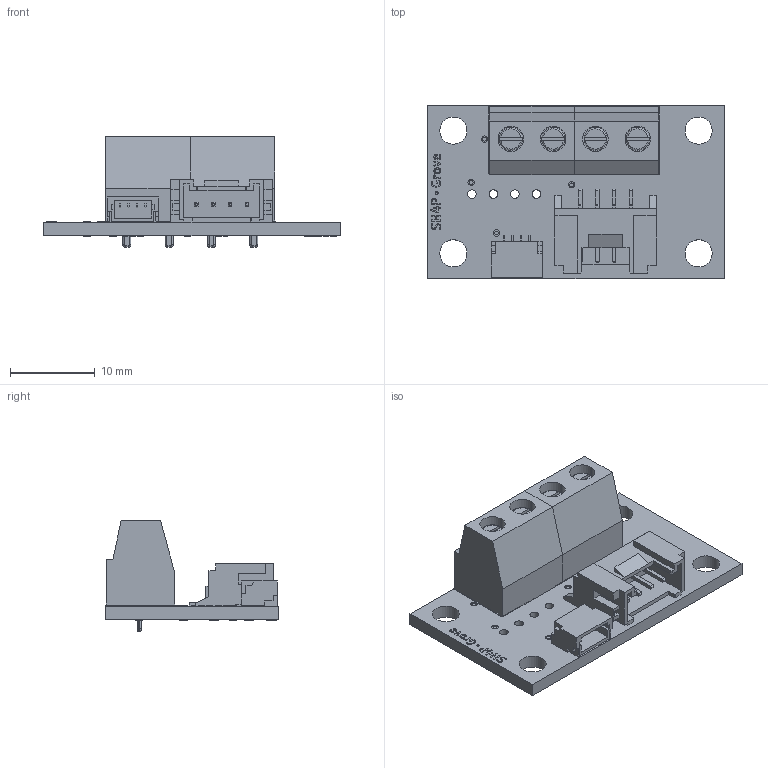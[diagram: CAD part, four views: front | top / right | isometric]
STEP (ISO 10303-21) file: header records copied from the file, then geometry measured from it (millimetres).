
FILE_DESCRIPTION(('FreeCAD Model'),'2;1');
FILE_NAME('Open CASCADE Shape Model','2025-01-06T09:47:46',(''),(''), 'Open CASCADE STEP processor 7.6','FreeCAD','Unknown');
FILE_SCHEMA(('AUTOMOTIVE_DESIGN { 1 0 10303 214 1 1 1 1 }'));
Length unit declared in the file: millimetre
Products named in the file (59): Unnamed; _d; Pcb_4a00; Board_Geoms_4a00; botSilks_2f016; botSilks_2f02; botSilks_2f003; botSilks_2f004; botSilks_2f005; botSilks_2f006; botSilks_2f007; botSilks_2f008; botSilks_2f009; botSilks_2f010; botSilks_2f011; botSilks_2f012; botSilks_2f013; botSilks_2f014; botSilks_2f015; topSilks_22d021; topSilks_22d6; topSilks_22d007; topSilks_22d008; topSilks_22d009; topSilks_22d010; topSilks_22d011; topSilks_22d012; topSilks_22d013; topSilks_22d014; topSilks_22d015; topSilks_22d016; topSilks_22d017; topSilks_22d018; topSilks_22d019; topSilks_22d020; sh-4p-grove-breakout-terminal; Board_Geoms_4a001; botSilks_2f031; topSilks_22d037; Step_Models_4a00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
Assembly tree (160 placements, depth 7):
  Unnamed
    _d
      Pcb_4a00
      Board_Geoms_4a00
        Pcb_4a00
        botSilks_2f016
          botSilks_2f02
          botSilks_2f003
          botSilks_2f004
          botSilks_2f005
          botSilks_2f006
          botSilks_2f007
          botSilks_2f008
          botSilks_2f009
          botSilks_2f010
          botSilks_2f011
          botSilks_2f012
          botSilks_2f013
          botSilks_2f014
          botSilks_2f015
        topSilks_22d021
          topSilks_22d6
          topSilks_22d007
          topSilks_22d008
          topSilks_22d009
          topSilks_22d010
          topSilks_22d011
          topSilks_22d012
          topSilks_22d013
          topSilks_22d014
          topSilks_22d015
          topSilks_22d016
          topSilks_22d017
          topSilks_22d018
          topSilks_22d019
          topSilks_22d020
      sh-4p-grove-breakout-terminal
        Board_Geoms_4a001
          Pcb_4a00
          botSilks_2f031
            botSilks_2f02
            botSilks_2f003
            botSilks_2f004
            botSilks_2f005
            botSilks_2f006
            botSilks_2f007
            botSilks_2f008
            botSilks_2f009
            botSilks_2f010
            botSilks_2f011
            botSilks_2f012
            botSilks_2f013
            botSilks_2f014
            botSilks_2f015
          topSilks_22d037
            topSilks_22d6
            topSilks_22d007
            topSilks_22d008
            topSilks_22d009
            topSilks_22d010
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Bounding box: 35 x 20.5 x 13.1 mm (x, y, z)
Surface area: 28391.5 mm2
Topology: 86 solids, 260 shells, 4130 faces, 21746 edges, 18226 vertices
Faces by surface type: plane 3258, cylinder 648, bspline 224
Full cylindrical faces by diameter (mm): 1.02 x24, 1.3 x24, 3.2 x24
Entity records: 33583 total; most frequent: CARTESIAN_POINT 6709, DIRECTION 4280, ORIENTED_EDGE 4065, EDGE_CURVE 2998, LINE 2844, VECTOR 2844, VERTEX_POINT 2631, AXIS2_PLACEMENT_3D 718
